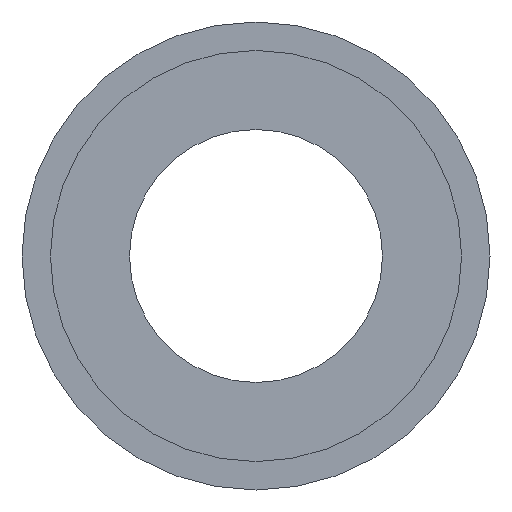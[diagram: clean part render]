
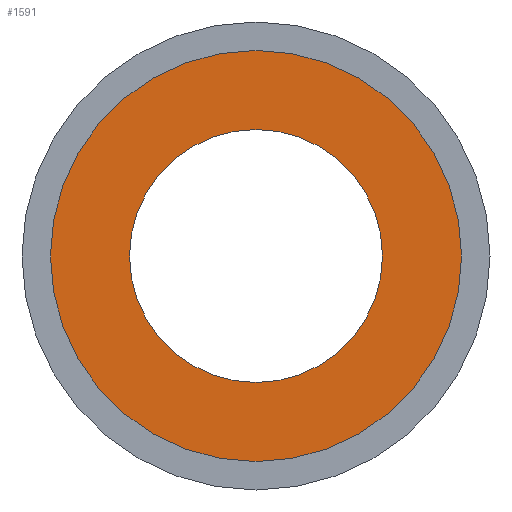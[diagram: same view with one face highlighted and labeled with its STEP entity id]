
A CAD part, front view. The second image highlights one B-rep face of the part: STEP entity #1591.
In plain terms, the highlighted planar face has unit normal (0, -1, 0).
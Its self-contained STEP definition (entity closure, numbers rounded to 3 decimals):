
#61 = CIRCLE ( 'NONE', #410, 20. ) ;
#387 = EDGE_LOOP ( 'NONE', ( #736, #3461 ) ) ;
#410 = AXIS2_PLACEMENT_3D ( 'NONE', #2614, #2335, #3497 ) ;
#454 = CARTESIAN_POINT ( 'NONE',  ( 0., -14., 20. ) ) ;
#573 = FACE_OUTER_BOUND ( 'NONE', #3603, .T. ) ;
#583 = DIRECTION ( 'NONE',  ( 0., 0., -1. ) ) ;
#736 = ORIENTED_EDGE ( 'NONE', *, *, #2701, .F. ) ;
#782 = VERTEX_POINT ( 'NONE', #3212 ) ;
#822 = AXIS2_PLACEMENT_3D ( 'NONE', #454, #2737, #993 ) ;
#927 = CIRCLE ( 'NONE', #1683, 20. ) ;
#993 = DIRECTION ( 'NONE',  ( 0., 0., 1. ) ) ;
#1157 = VERTEX_POINT ( 'NONE', #2536 ) ;
#1175 = DIRECTION ( 'NONE',  ( 0., -1., 0. ) ) ;
#1296 = CIRCLE ( 'NONE', #2740, 32.5 ) ;
#1309 = PLANE ( 'NONE',  #822 ) ;
#1315 = EDGE_CURVE ( 'NONE', #3635, #782, #1296, .T. ) ;
#1591 = ADVANCED_FACE ( 'NONE', ( #2334, #573 ), #1309, .F. ) ;
#1683 = AXIS2_PLACEMENT_3D ( 'NONE', #2898, #2308, #583 ) ;
#1716 = CARTESIAN_POINT ( 'NONE',  ( 0., -14., 0. ) ) ;
#2059 = CARTESIAN_POINT ( 'NONE',  ( 0., -14., -20. ) ) ;
#2179 = ORIENTED_EDGE ( 'NONE', *, *, #1315, .T. ) ;
#2255 = VERTEX_POINT ( 'NONE', #2059 ) ;
#2275 = DIRECTION ( 'NONE',  ( 0., -1., 0. ) ) ;
#2308 = DIRECTION ( 'NONE',  ( 0., -1., 0. ) ) ;
#2334 = FACE_BOUND ( 'NONE', #387, .T. ) ;
#2335 = DIRECTION ( 'NONE',  ( 0., -1., 0. ) ) ;
#2348 = DIRECTION ( 'NONE',  ( 0., 0., -1. ) ) ;
#2429 = CIRCLE ( 'NONE', #3437, 32.5 ) ;
#2536 = CARTESIAN_POINT ( 'NONE',  ( 0., -14., 20. ) ) ;
#2614 = CARTESIAN_POINT ( 'NONE',  ( 0., -14., 0. ) ) ;
#2675 = EDGE_CURVE ( 'NONE', #782, #3635, #2429, .T. ) ;
#2701 = EDGE_CURVE ( 'NONE', #2255, #1157, #61, .T. ) ;
#2737 = DIRECTION ( 'NONE',  ( 0., 1., 0. ) ) ;
#2740 = AXIS2_PLACEMENT_3D ( 'NONE', #1716, #1175, #2348 ) ;
#2768 = EDGE_CURVE ( 'NONE', #1157, #2255, #927, .T. ) ;
#2788 = ORIENTED_EDGE ( 'NONE', *, *, #2675, .T. ) ;
#2898 = CARTESIAN_POINT ( 'NONE',  ( 0., -14., 0. ) ) ;
#3120 = CARTESIAN_POINT ( 'NONE',  ( 0., -14., -32.5 ) ) ;
#3212 = CARTESIAN_POINT ( 'NONE',  ( 0., -14., 32.5 ) ) ;
#3427 = CARTESIAN_POINT ( 'NONE',  ( 0., -14., 0. ) ) ;
#3437 = AXIS2_PLACEMENT_3D ( 'NONE', #3427, #2275, #3439 ) ;
#3439 = DIRECTION ( 'NONE',  ( 0., 0., -1. ) ) ;
#3461 = ORIENTED_EDGE ( 'NONE', *, *, #2768, .F. ) ;
#3497 = DIRECTION ( 'NONE',  ( 0., 0., -1. ) ) ;
#3603 = EDGE_LOOP ( 'NONE', ( #2179, #2788 ) ) ;
#3635 = VERTEX_POINT ( 'NONE', #3120 ) ;
